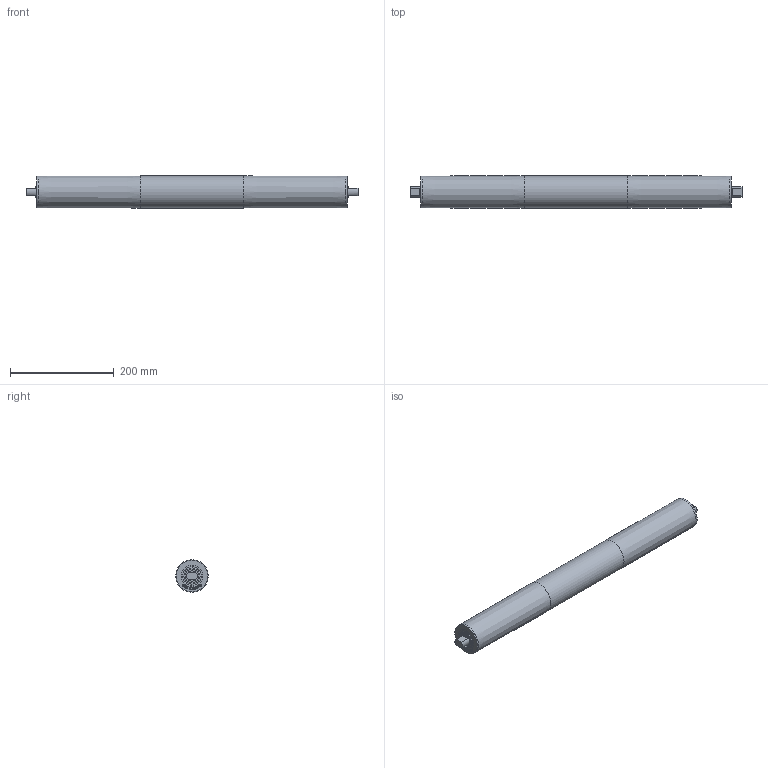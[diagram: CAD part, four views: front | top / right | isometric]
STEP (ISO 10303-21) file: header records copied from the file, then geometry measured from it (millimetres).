
FILE_DESCRIPTION(/* description */ (''),/* implementation_level */ '2;1');
FILE_NAME(/* name */ 'C:\WF_Ellegaard\Designs\00 standart komponenter\Tromlemotor\Scandrive S\Ø60\Scandrive S Ø60 RL600.stp',/* time_stamp */ '2017-04-19T17:56:53+02:00',/* author */ ('guh'),/* organization */ (''),/* preprocessor_version */ 'ST-DEVELOPER v15.6',/* originating_system */ 'Autodesk Inventor 2015',/* authorisation */ '');
FILE_SCHEMA (('AUTOMOTIVE_DESIGN { 1 0 10303 214 3 1 1 }'));
Length unit declared in the file: millimetre
Products named in the file (1): Scandrive S Ø60 RL600
Bounding box: 641 x 62.5 x 62.5 mm (x, y, z)
Volume: 409396.7 mm3; surface area: 234524.2 mm2
Topology: 1 solids, 2 shells, 454 faces, 1186 edges, 790 vertices
Faces by surface type: plane 236, bspline 196, cylinder 16, cone 4, torus 2
Full cylindrical faces by diameter (mm): 20 x2, 26 x2, 26.02 x2, 41.98 x2, 42 x2, 57 x1, 61.495 x2, 61.5 x2, 62.5 x1
Entity records: 14806 total; most frequent: CARTESIAN_POINT 4953, ORIENTED_EDGE 2324, DIRECTION 1336, EDGE_CURVE 1162, VERTEX_POINT 788, LINE 722, VECTOR 722, EDGE_LOOP 530
